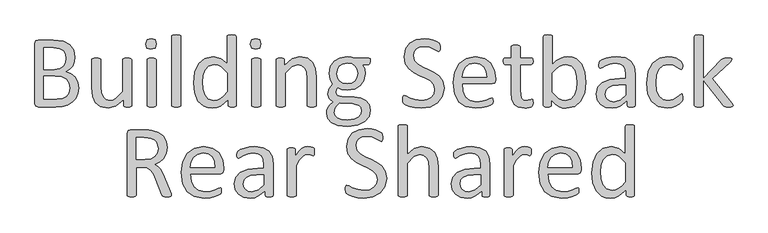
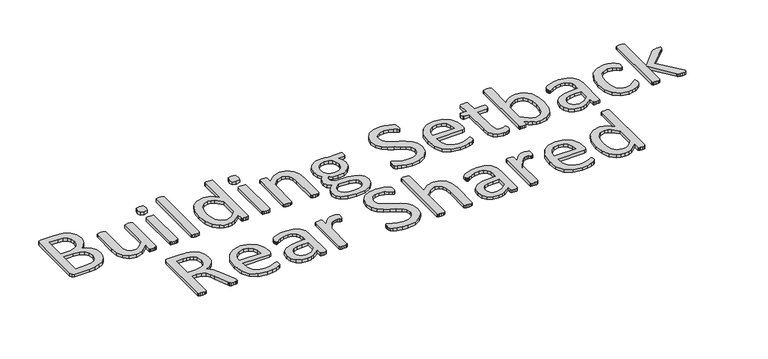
"""IFC4 building model written with IfcOpenShell, lengths in millimetres: proxy geometry, Marker-Setback Bldg Distance : Setback-Building-Rear Shared."""

from ifc_helpers import new_model, si_unit, origin, origin_with_axes, place, context, project, spatial, polyline, outline, extrude, source, transform, mapped, element, save


def generic_models_a3a4bf36(model_context):
    return source(origin(), model_context, "Body", "SweptSolid", [
        extrude(outline(polyline([(2948.652928, 103.9978258), (2946.2704862, 86.8080563), (2939.5755234, 72.6340358), (2929.2013467, 61.6265518), (2915.5098461, 53.6649743), (2899.1946438, 48.8397759), (2879.2907001, 47.2414289), (2827.2388718, 47.2414289), (2820.5740664, 49.6540281), (2817.4075299, 58.0981254), (2817.4075299, 237.1129882), (2820.6042239, 245.5570855), (2827.3595017, 247.9696848), (2872.9576272, 247.9696848), (2902.4818102, 244.5015734), (2921.6318166, 234.4289716), (2933.1821354, 218.2042418), (2937.0724517, 196.4606912), (2935.3534747, 182.6184031), (2930.3171738, 170.4046195), (2921.9333915, 160.3923327), (2910.3529152, 153.1545351), (2925.3110304, 147.5753993), (2937.4343416, 137.2313801), (2945.6371789, 122.5446823), (2948.652928, 103.9978258)]), holes=[polyline([(2910.0513403, 192.8417924), (2908.0307885, 206.1714031), (2901.6977155, 216.2741624), (2890.4188141, 222.6072354), (2871.9925875, 224.8087322), (2844.4286413, 224.8087322), (2844.4286413, 159.1860331), (2874.7670766, 159.1860331), (2891.4743262, 161.9303648), (2901.9992904, 169.2887924), (2908.1212609, 180.085174), (2910.0513403, 192.8417924)]), polyline([(2921.6318166, 103.7565658), (2918.7970125, 119.3178309), (2910.5037027, 130.5967323), (2896.812202, 137.5329551), (2876.0940062, 139.8852393), (2844.4286413, 139.8852393), (2844.4286413, 70.4023815), (2882.849284, 70.4023815), (2898.7121239, 72.5435633), (2910.6243326, 78.8766363), (2918.70654, 89.311128), (2921.6318166, 103.7565658)])]), origin_with_axes(), (0.0, 0.0, 1.0), 10.0),
        extrude(outline(polyline([(3106.9194374, 51.9459974), (3106.3464451, 49.8952881), (3104.3258932, 48.4477285), (3100.495892, 47.5430038), (3094.7358113, 47.2414289), (3088.5836833, 47.5430038), (3084.8441545, 48.4477285), (3082.9743901, 49.8952881), (3082.4918702, 51.9459974), (3082.4918702, 70.1008066), (3059.3610751, 49.7746581), (3036.23028, 43.3812701), (3013.1899574, 48.0255236), (2998.0508972, 60.6011971), (2989.7575873, 79.1178962), (2987.2545156, 104.8422355), (2987.2545156, 189.1625786), (2987.827508, 191.2132879), (2990.0290048, 192.7513199), (2994.2510534, 193.6862021), (3000.7650713, 193.927462), (3007.2790892, 193.6862021), (3011.4106654, 192.7814774), (3013.6121622, 191.2736029), (3014.275627, 189.1625786), (3014.275627, 109.0642841), (3015.9644465, 89.7333328), (3021.1515348, 77.3386043), (3029.957522, 69.3770268), (3042.382408, 66.5422227), (3051.527667, 68.2385816), (3060.6276897, 73.3276581), (3079.898326, 93.2617592), (3079.898326, 189.2228935), (3080.4713184, 191.2736029), (3082.6728152, 192.7814774), (3086.8345488, 193.6862021), (3093.4088817, 193.927462), (3099.9228996, 193.6862021), (3103.9941608, 192.7814774), (3106.1956576, 191.2736029), (3106.9194374, 189.2228935), (3106.9194374, 51.9459974)])), origin_with_axes(), (0.0, 0.0, 1.0), 10.0),
        extrude(outline(polyline([(3180.262454, 236.5701534), (3176.94513, 224.2357399), (3164.640874, 220.9485734), (3152.6381928, 224.1452674), (3149.3811838, 236.2082635), (3152.6985078, 248.5426771), (3165.0027639, 251.8298435), (3177.005445, 248.6331496), (3180.262454, 236.5701534)])), origin_with_axes(), (0.0, 0.0, 1.0), 10.0),
        extrude(outline(polyline([(3180.262454, 51.9459974), (3179.5989892, 49.8952881), (3177.4578074, 48.4477285), (3173.3865462, 47.5430038), (3166.6915833, 47.2414289), (3160.1172504, 47.5430038), (3155.9555167, 48.4477285), (3153.8143349, 49.8952881), (3153.2413426, 51.9459974), (3153.2413426, 189.2228935), (3153.8143349, 191.1831304), (3155.9555167, 192.7211624), (3160.1172504, 193.6258871), (3166.6915833, 193.927462), (3173.3865462, 193.6258871), (3177.4578074, 192.7211624), (3179.5989892, 191.1831304), (3180.262454, 189.2228935), (3180.262454, 51.9459974)])), origin_with_axes(), (0.0, 0.0, 1.0), 10.0),
        extrude(outline(polyline([(3253.6054705, 52.0063124), (3252.9420058, 49.955603), (3250.8008239, 48.477886), (3246.7295627, 47.5430038), (3240.0345999, 47.2414289), (3233.460267, 47.5430038), (3229.2985333, 48.477886), (3227.1573515, 49.955603), (3226.5843592, 52.0063124), (3226.5843592, 258.4644914), (3227.1573515, 260.6358307), (3229.2985333, 262.1738627), (3233.460267, 263.1087449), (3240.0345999, 263.4103198), (3246.7295627, 263.1087449), (3250.8008239, 262.1738627), (3252.9420058, 260.6358307), (3253.6054705, 258.4644914), (3253.6054705, 52.0063124)])), origin_with_axes(), (0.0, 0.0, 1.0), 10.0),
        extrude(outline(polyline([(3419.5922975, 52.0666274), (3419.0193052, 49.8651306), (3417.0590683, 48.3874135), (3413.410012, 47.5430038), (3407.8911913, 47.2414289), (3402.1612681, 47.5430038), (3398.4217393, 48.3270986), (3396.310715, 49.6841856), (3395.6472502, 51.7047375), (3395.6472502, 68.834192), (3373.2402348, 50.1063905), (3361.0792268, 45.0625502), (3347.8174704, 43.3812701), (3333.8545524, 44.8816053), (3322.1232887, 49.3826107), (3304.9033617, 65.6073405), (3295.2529647, 89.6730178), (3292.2070582, 118.774996), (3296.006902, 151.4958731), (3307.2254884, 176.4059601), (3325.6215575, 192.2386426), (3351.0141644, 197.7876208), (3372.9386599, 192.38943), (3392.5711861, 176.5567476), (3392.5711861, 258.4041764), (3393.1441785, 260.5152008), (3395.3456753, 262.0833903), (3399.5074089, 263.0182725), (3405.9007969, 263.4103198), (3412.5957598, 263.0182725), (3416.6670209, 262.0833903), (3418.8685177, 260.5453582), (3419.5922975, 258.4644914), (3419.5922975, 52.0666274)]), holes=[polyline([(3392.5711861, 149.0531164), (3373.2100773, 168.0824928), (3363.6652316, 172.9906243), (3353.7283386, 174.6266682), (3337.7448687, 170.0427297), (3327.0691171, 157.949576), (3321.097934, 140.9407515), (3319.2281696, 121.6701151), (3320.7963591, 101.2836516), (3326.2548648, 83.6113623), (3336.5687265, 71.2166337), (3352.7029839, 66.5422227), (3362.1724359, 67.8993098), (3371.5212579, 72.3927759), (3381.5033872, 80.5352983), (3392.5711861, 92.8998693), (3392.5711861, 149.0531164)])]), origin_with_axes(), (0.0, 0.0, 1.0), 10.0),
        extrude(outline(polyline([(3492.9353141, 236.5701534), (3489.6179901, 224.2357399), (3477.3137341, 220.9485734), (3465.3110529, 224.1452674), (3462.0540439, 236.2082635), (3465.3713679, 248.5426771), (3477.675624, 251.8298435), (3489.6783051, 248.6331496), (3492.9353141, 236.5701534)])), origin_with_axes(), (0.0, 0.0, 1.0), 10.0),
        extrude(outline(polyline([(3492.9353141, 51.9459974), (3492.2718493, 49.8952881), (3490.1306675, 48.4477285), (3486.0594063, 47.5430038), (3479.3644434, 47.2414289), (3472.7901105, 47.5430038), (3468.6283768, 48.4477285), (3466.487195, 49.8952881), (3465.9142027, 51.9459974), (3465.9142027, 189.2228935), (3466.487195, 191.1831304), (3468.6283768, 192.7211624), (3472.7901105, 193.6258871), (3479.3644434, 193.927462), (3486.0594063, 193.6258871), (3490.1306675, 192.7211624), (3492.2718493, 191.1831304), (3492.9353141, 189.2228935), (3492.9353141, 51.9459974)])), origin_with_axes(), (0.0, 0.0, 1.0), 10.0),
        extrude(outline(polyline([(3658.922141, 52.0063124), (3658.2586763, 49.955603), (3656.1174944, 48.477886), (3652.0462332, 47.5430038), (3645.4719003, 47.2414289), (3638.7769375, 47.5430038), (3634.7056763, 48.4477285), (3632.5644945, 49.8952881), (3631.9010297, 52.0063124), (3631.9010297, 132.5871266), (3630.1217378, 151.5260306), (3624.9648069, 163.9207591), (3616.1889772, 171.8823366), (3603.7339337, 174.6266682), (3585.428337, 167.9015478), (3566.2783306, 148.1483917), (3566.2783306, 52.0063124), (3565.6148659, 49.8952881), (3563.473684, 48.4477285), (3559.4024228, 47.5430038), (3552.70746, 47.2414289), (3546.1331271, 47.5430038), (3541.9713934, 48.4477285), (3539.8302116, 49.8952881), (3539.2572193, 51.9459974), (3539.2572193, 189.2228935), (3539.7397391, 191.2736029), (3541.699976, 192.7814774), (3545.4696623, 193.6862021), (3551.5614754, 193.927462), (3557.5326584, 193.6862021), (3561.2118723, 192.7814774), (3563.1117942, 191.2736029), (3563.6847865, 189.2228935), (3563.6847865, 171.0680843), (3586.7552666, 191.3640754), (3609.9463767, 197.7876208), (3632.9866993, 193.0830523), (3648.1257595, 180.5073788), (3656.4190693, 162.0811522), (3658.922141, 136.6885453), (3658.922141, 52.0063124)])), origin_with_axes(), (0.0, 0.0, 1.0), 10.0),
        extrude(outline(polyline([(3821.0488092, 184.2167501), (3819.5710922, 176.88848), (3815.8014059, 174.6266682), (3795.8371473, 174.6266682), (3803.4368349, 162.1414672), (3805.6081742, 147.9674467), (3801.7480154, 126.4953136), (3790.6802165, 110.6927886), (3773.5507619, 100.8312893), (3751.5659514, 97.4234929), (3735.3713791, 99.6853046), (3723.5194854, 105.3850703), (3718.694287, 99.0821548), (3716.8245225, 90.9094749), (3721.9512959, 81.9828578), (3735.5824816, 78.122699), (3772.6158797, 76.5545095), (3792.0373035, 73.629233), (3807.3271511, 66.1803328), (3817.4299104, 54.3284391), (3821.0488092, 38.0132368), (3817.0077055, 19.3457503), (3804.612977, 3.7844853), (3783.3217888, -6.8007938), (3752.7722511, -10.6609526), (3723.8512178, -7.7658335), (3704.309164, 0.135429), (3693.2413651, 12.1079526), (3689.8034112, 27.1565403), (3691.0398683, 37.1989846), (3694.8397121, 46.4271767), (3701.1727851, 54.7808015), (3709.8882998, 62.682064), (3697.6443587, 72.6038783), (3693.6635699, 85.5414417), (3697.7649886, 102.7010537), (3707.8979054, 116.2417669), (3700.2982178, 129.2094877), (3697.5237287, 146.7611471), (3701.5346749, 168.2031228), (3712.6929464, 184.2469076), (3729.8224009, 194.2893519), (3751.5659514, 197.7876208), (3763.3876877, 196.7622661), (3773.7015494, 193.927462), (3815.8014059, 193.927462), (3819.7218797, 191.5450203), (3821.0488092, 184.2167501)]), holes=[polyline([(3782.4472216, 147.7865018), (3780.411591, 160.6712895), (3774.3046992, 170.3744621), (3764.4431998, 176.4587357), (3751.1437466, 178.486827), (3737.6935059, 175.9535978), (3728.1637389, 169.017375), (3722.5242882, 158.8543007), (3720.6846813, 146.8214621), (3722.7203119, 134.2759461), (3728.8272037, 124.7461791), (3738.5982306, 118.7297598), (3751.6262664, 116.7242867), (3765.3479245, 119.1670434), (3774.968164, 125.9524788), (3780.6076147, 135.9647656), (3782.4472216, 147.7865018)]), polyline([(3794.0276979, 37.1688271), (3792.1579335, 45.6657), (3786.5486403, 51.9761549), (3766.3431217, 57.4949756), (3729.6716134, 58.8219052), (3721.3783036, 50.9809577), (3716.2515302, 43.86379), (3713.6579861, 37.1989846), (3712.9643638, 30.4135493), (3715.557908, 20.9817942), (3723.3385405, 14.158662), (3735.7634265, 10.0195464), (3752.2897312, 8.6398412), (3772.0730449, 11.022283), (3784.9201358, 17.3855134), (3791.9166736, 26.462918), (3794.0276979, 37.1688271)])]), origin_with_axes(), (0.0, 0.0, 1.0), 10.0),
        extrude(outline(polyline([(4041.077859, 103.153416), (4035.8907706, 77.8211241), (4021.4453327, 58.9726927), (3999.7017822, 47.3017439), (3972.8013008, 43.3812701), (3954.1036567, 44.8891447), (3938.7233367, 48.598516), (3927.3841203, 53.152297), (3921.0208898, 57.1632432), (3918.3971881, 61.8074967), (3917.5527784, 69.7389167), (3917.8543533, 75.6196273), (3918.7892355, 79.3893136), (3920.357425, 81.4098655), (3922.5589218, 81.9828578), (3928.7412073, 79.5702586), (3939.0249116, 74.3228552), (3954.1338142, 69.0151369), (3974.5504352, 66.5422227), (3990.6243776, 68.894507), (4003.1397361, 75.5291549), (4011.2219435, 86.0239615), (4014.0567476, 100.197982), (4010.0759589, 114.9148373), (3999.6113097, 125.6207464), (3984.8039819, 134.0648437), (3967.7348424, 141.9057912), (3950.7561753, 150.7419358), (3936.0091625, 162.1414672), (3925.4540409, 177.5821023), (3921.4129372, 198.7526605), (3926.0270332, 221.4009358), (3938.8439666, 238.0478704), (3958.3860204, 248.3014172), (3982.8739025, 251.8298435), (3996.4146157, 250.5330714), (4009.2315491, 247.0951175), (4019.9676157, 242.3000766), (4026.1499012, 238.0177129), (4028.0799806, 235.5146412), (4028.8640754, 233.282987), (4029.3465952, 229.9958205), (4029.4973827, 225.0499921), (4029.2561227, 219.9232187), (4028.5625004, 216.1836899), (4027.2355709, 213.9520356), (4025.275334, 213.2282559), (4019.8469857, 215.5805401), (4010.7997386, 220.8581009), (3998.1335927, 226.2261342), (3981.7279179, 228.6688909), (3966.9809051, 226.4673941), (3956.6067284, 220.616841), (3950.4847579, 211.9314838), (3948.4340486, 201.2858897), (3952.3545223, 186.7499793), (3962.8191715, 175.9535978), (3977.6868142, 167.3285555), (3994.6654813, 159.4272931), (4011.6743058, 150.6514634), (4026.5419486, 139.372562), (4037.0669127, 124.0525569), (4041.077859, 103.153416)])), origin_with_axes(), (0.0, 0.0, 1.0), 10.0),
        extrude(outline(polyline([(4195.4842096, 127.7619282), (4192.4986181, 119.2575159), (4185.6528678, 116.7242867), (4095.1200817, 116.7242867), (4097.3818935, 94.4077438), (4104.8911086, 77.3989193), (4118.5826092, 66.4819078), (4139.2103326, 62.682064), (4156.3397871, 64.4613559), (4169.367823, 68.4723021), (4178.3849126, 72.4832483), (4183.7227884, 74.2625403), (4185.5925528, 73.7498629), (4186.8893249, 72.2419884), (4187.5527897, 69.4373418), (4187.7638921, 65.0343482), (4187.6131046, 61.8074967), (4187.2210573, 59.36474), (4186.46712, 57.4045032), (4185.1100329, 55.7458412), (4180.194362, 52.8205646), (4169.6090829, 48.6588309), (4154.5303377, 45.0097746), (4136.2548985, 43.3812701), (4106.7910305, 48.2064686), (4085.5299997, 62.561434), (4072.5019639, 86.4763239), (4068.0989703, 119.8606657), (4072.7130663, 152.4307553), (4086.0125196, 176.9186375), (4107.0021329, 192.38943), (4134.5660791, 197.7876208), (4162.3109702, 192.570375), (4181.1594017, 178.5169845), (4192.0160982, 157.7987886), (4195.4842096, 132.4061817), (4195.4842096, 127.7619282)]), holes=[polyline([(4168.4630983, 136.0250805), (4166.5104008, 153.7350668), (4159.8078985, 167.1777681), (4148.5214577, 175.6595622), (4132.8169446, 178.486827), (4116.7430023, 174.9885581), (4105.1926835, 165.6698936), (4097.9850433, 152.1291804), (4095.1200817, 136.0250805), (4168.4630983, 136.0250805)])]), origin_with_axes(), (0.0, 0.0, 1.0), 10.0),
        extrude(outline(polyline([(4307.4288139, 61.1138745), (4306.825664, 53.5745019), (4304.9860571, 49.4730832), (4301.3068433, 47.000169), (4295.7277076, 45.1002471), (4289.0629022, 43.86379), (4282.036207, 43.3812701), (4263.6702953, 46.3065467), (4251.1549368, 55.1426914), (4244.0377691, 70.1309641), (4241.8061148, 91.5729397), (4241.8061148, 174.6266682), (4223.4703607, 174.6266682), (4219.9419343, 176.88848), (4218.6451622, 184.2167501), (4219.0070521, 188.7102162), (4219.9419343, 191.7561227), (4221.4799663, 193.4449422), (4223.5909906, 193.927462), (4241.8061148, 193.927462), (4241.8061148, 227.5229063), (4242.3791071, 229.5434582), (4244.520289, 231.2021201), (4248.6820226, 232.2274748), (4255.2563555, 232.5290497), (4261.9513184, 232.2274748), (4266.0225796, 231.2021201), (4268.1637614, 229.5434582), (4268.8272262, 227.5229063), (4268.8272262, 193.927462), (4302.6036154, 193.927462), (4304.6241672, 193.4449422), (4306.1621993, 191.7561227), (4307.1272389, 188.7102162), (4307.4288139, 184.2167501), (4306.1018843, 176.88848), (4302.6036154, 174.6266682), (4268.8272262, 174.6266682), (4268.8272262, 95.9759333), (4272.8381724, 73.9911229), (4278.4399262, 68.4044478), (4287.2232953, 66.5422227), (4293.2246359, 67.235845), (4297.8990469, 68.6834045), (4301.4274733, 70.1611216), (4304.0511749, 70.8849013), (4306.4637742, 69.0151369), (4307.1272389, 65.9993879), (4307.4288139, 61.1138745)])), origin_with_axes(), (0.0, 0.0, 1.0), 10.0),
        extrude(outline(polyline([(4465.6953233, 122.3938949), (4461.8351645, 89.5222304), (4450.4657907, 64.6121434), (4432.0094065, 48.8397759), (4406.9485321, 43.3812701), (4394.8855359, 44.7081997), (4384.0288394, 49.0207208), (4373.4134028, 56.5299359), (4362.1948164, 67.4469474), (4362.1948164, 51.7047375), (4361.5313516, 49.6841856), (4359.3901698, 48.3270986), (4355.7109559, 47.5430038), (4350.0715052, 47.2414289), (4344.522527, 47.5430038), (4340.7528407, 48.3874135), (4338.7926038, 49.8651306), (4338.310084, 52.0063124), (4338.310084, 258.4644914), (4338.8830763, 260.6358307), (4341.0242581, 262.1738627), (4345.1859918, 263.1087449), (4351.7603247, 263.4103198), (4358.4552875, 263.1087449), (4362.5265487, 262.1738627), (4364.6677306, 260.6056732), (4365.3311954, 258.4644914), (4365.3311954, 174.6869832), (4377.0624591, 185.4532072), (4388.190573, 192.570375), (4399.0774271, 196.5511637), (4410.5674309, 197.7876208), (4424.3267859, 196.2646675), (4435.9298803, 191.6958077), (4453.0593348, 175.3806055), (4462.6795742, 151.4054006), (4465.6953233, 122.3938949)]), holes=[polyline([(4438.6742119, 119.4384608), (4437.1060224, 139.9757118), (4431.6173592, 157.6178436), (4421.27334, 169.9522572), (4405.1993976, 174.6266682), (4395.7902606, 173.2695811), (4386.3509661, 168.7459576), (4376.3688368, 160.6335927), (4365.3311954, 148.1483917), (4365.3311954, 92.1157746), (4384.8129341, 73.0863981), (4394.2974648, 68.1782666), (4404.1740429, 66.5422227), (4420.0670404, 71.1563188), (4430.8031069, 83.3399449), (4436.8044475, 100.3487694), (4438.6742119, 119.4384608)])]), origin_with_axes(), (0.0, 0.0, 1.0), 10.0),
        extrude(outline(polyline([(4612.3813564, 51.8856824), (4611.0544268, 49.0810358), (4607.435528, 47.6937913), (4600.6802502, 47.2414289), (4593.8344998, 47.6937913), (4590.1251285, 49.0810358), (4588.9791439, 51.8856824), (4588.9791439, 65.758128), (4568.6529954, 49.7143431), (4557.1026766, 44.9645384), (4544.888893, 43.3812701), (4524.9547919, 46.2462317), (4509.7855742, 54.5395416), (4500.0447048, 67.8691523), (4496.5765934, 85.8430166), (4501.3716344, 106.289795), (4515.12345, 120.7050754), (4537.0479455, 129.2999602), (4566.2403962, 132.1649218), (4585.3602451, 132.1649218), (4585.3602451, 143.6850831), (4583.6714256, 158.7638283), (4578.2430773, 169.6808398), (4568.5625229, 176.2551727), (4553.9361401, 178.486827), (4537.1987329, 176.0742277), (4524.2310121, 170.7665094), (4514.9123476, 165.4587911), (4509.3633693, 163.0461919), (4507.19203, 163.6794992), (4505.593683, 165.6095786), (4504.5984859, 168.9269025), (4504.296911, 173.3600536), (4504.8397458, 179.6931266), (4507.4936049, 184.1262777), (4514.7314026, 188.6499012), (4526.5531388, 193.1132098), (4541.1795217, 196.4606912), (4557.1931491, 197.7876208), (4582.8270159, 194.3798244), (4599.9263129, 184.4278526), (4609.4259224, 168.1729653), (4612.3813564, 145.4945325), (4612.3813564, 51.8856824)]), holes=[polyline([(4585.3602451, 112.8641279), (4563.8881119, 112.8641279), (4545.9745626, 111.084836), (4533.3385742, 105.8374327), (4525.949989, 97.5139653), (4523.5977048, 86.3255364), (4525.2865242, 76.584667), (4530.3529826, 69.0754519), (4538.4653475, 64.280411), (4549.2918866, 62.682064), (4567.6276407, 67.7786798), (4585.3602451, 83.3701024), (4585.3602451, 112.8641279)])]), origin_with_axes(), (0.0, 0.0, 1.0), 10.0),
        extrude(outline(polyline([(4755.2072308, 74.98632), (4755.0564433, 70.7642714), (4754.5136085, 67.7485223), (4753.6088838, 65.3057656), (4751.1962846, 61.6868668), (4744.7124241, 55.8061562), (4734.4287199, 49.5635557), (4722.0339914, 45.1002471), (4708.1615458, 43.3812701), (4681.9848442, 48.3874135), (4662.8951528, 63.0137964), (4651.163889, 86.5969538), (4647.1227853, 118.835311), (4652.0686137, 154.5719371), (4665.6093269, 179.0296618), (4685.8450029, 193.1735248), (4711.0566649, 197.7876208), (4723.7831258, 196.4305337), (4735.1223422, 192.8719499), (4744.3505343, 187.8054915), (4750.2010874, 182.8898206), (4752.7041591, 179.6629691), (4753.8501437, 177.0995824), (4754.4532935, 173.9330459), (4754.604081, 169.4998948), (4753.2469939, 161.4780024), (4749.9598275, 159.1860331), (4744.7425816, 161.5986324), (4737.2936815, 166.9063507), (4726.3465125, 172.214069), (4711.2376098, 174.6266682), (4695.3672305, 171.1283993), (4683.7038211, 160.6335927), (4676.5338778, 143.4739807), (4674.1438967, 119.9812957), (4676.6168109, 96.6393981), (4683.9149236, 79.8718335), (4695.7668173, 69.8293892), (4711.8407596, 66.5422227), (4726.8893473, 69.5881293), (4738.1079338, 76.2830921), (4746.0996687, 82.8875825), (4751.1661271, 85.8430166), (4752.945419, 85.2700243), (4754.2421911, 83.3399449), (4754.9961284, 79.901991), (4755.2072308, 74.98632)])), origin_with_axes(), (0.0, 0.0, 1.0), 10.0),
        extrude(outline(polyline([(4905.7534227, 52.1269423), (4905.1201154, 49.9857605), (4903.0392486, 48.4477285), (4898.9679874, 47.5430038), (4892.303182, 47.2414289), (4885.4272742, 47.4826888), (4880.8433356, 48.2366261), (4877.8275866, 49.7445006), (4875.7165623, 52.1269423), (4816.9697711, 128.0635031), (4816.9697711, 51.9459974), (4816.3063063, 49.8952881), (4814.1651244, 48.4477285), (4810.0938633, 47.5430038), (4803.3989004, 47.2414289), (4796.8245675, 47.5430038), (4792.6628338, 48.477886), (4790.521652, 49.955603), (4789.9486597, 52.0063124), (4789.9486597, 258.4644914), (4790.521652, 260.6358307), (4792.6628338, 262.1738627), (4796.8245675, 263.1087449), (4803.3989004, 263.4103198), (4810.0938633, 263.1087449), (4814.1651244, 262.1738627), (4816.3063063, 260.6056732), (4816.9697711, 258.4041764), (4816.9697711, 131.561772), (4870.6501039, 188.6197437), (4873.3341205, 191.1228154), (4876.7117595, 192.7814774), (4881.356013, 193.6862021), (4887.8398734, 193.927462), (4894.4745213, 193.6862021), (4898.7870424, 192.9322649), (4901.1694842, 191.5751778), (4901.8932639, 189.3435235), (4900.8377518, 185.6944672), (4897.3093254, 181.442261), (4843.9908824, 131.7427169), (4901.9535789, 59.304425), (4904.8788555, 55.1125339), (4905.7534227, 52.1269423)])), origin_with_axes(), (0.0, 0.0, 1.0), 10.0),
        extrude(outline(polyline([(3225.9208944, -217.3559155), (3225.468532, -219.4669398), (3223.4781377, -221.0049718), (3219.1354591, -221.939854), (3211.6865589, -222.2414289), (3205.1423835, -221.939854), (3201.0409648, -220.9446568), (3198.6585231, -219.0447349), (3197.2109636, -215.9686709), (3178.8148944, -169.5261357), (3172.1500891, -154.9902254), (3164.0678817, -143.5605365), (3153.0603977, -136.1116364), (3137.8007075, -133.4577773), (3120.4299931, -133.4577773), (3120.4299931, -217.3559155), (3119.7363708, -219.4970973), (3117.534874, -220.9446568), (3113.4334553, -221.8493815), (3106.9194374, -222.2414289), (3100.4054195, -221.8493815), (3096.2436858, -220.9144993), (3094.042189, -219.4669398), (3093.4088817, -217.2956005), (3093.4088817, -32.3095546), (3096.5151032, -23.8956148), (3103.1799086, -21.513173), (3145.0385052, -21.513173), (3157.4030763, -21.9052204), (3166.3296934, -22.7797876), (3186.5050545, -29.1128606), (3201.2219098, -40.1505021), (3210.1183694, -55.4705072), (3213.0738035, -74.4697261), (3210.4501018, -92.5642203), (3202.8504143, -106.7080833), (3190.9382056, -117.3235199), (3175.3769405, -124.953365), (3184.3638727, -130.4118707), (3191.8730878, -138.3131332), (3198.4172632, -148.8984123), (3204.6297062, -162.408968), (3222.5432555, -206.137329), (3225.3177446, -213.8576466), (3225.9208944, -217.3559155)]), holes=[polyline([(3186.0526921, -77.3648452), (3180.8957613, -58.0037364), (3173.9821566, -51.2032223), (3163.5552043, -46.604205), (3154.9904771, -45.126488), (3142.4449611, -44.6741256), (3120.4299931, -44.6741256), (3120.4299931, -110.2968247), (3145.9432299, -110.2968247), (3163.7964642, -107.8239105), (3176.3419802, -100.8876877), (3183.7004079, -90.4230385), (3186.0526921, -77.3648452)])]), origin_with_axes(), (0.0, 0.0, 1.0), 10.0),
        extrude(outline(polyline([(3382.9207892, -141.7209296), (3379.9351977, -150.2253419), (3373.0894474, -152.7585711), (3282.5566613, -152.7585711), (3284.8184731, -175.075114), (3292.3276882, -192.0839385), (3306.0191888, -203.00095), (3326.6469122, -206.8007938), (3343.7763667, -205.0215019), (3356.8044026, -201.0105557), (3365.8214922, -196.9996095), (3371.159368, -195.2203175), (3373.0291324, -195.7329949), (3374.3259045, -197.2408694), (3374.9893693, -200.045516), (3375.2004717, -204.4485096), (3375.0496842, -207.6753611), (3374.6576369, -210.1181178), (3373.9036996, -212.0783546), (3372.5466125, -213.7370166), (3367.6309416, -216.6622932), (3357.0456625, -220.8240269), (3341.9669173, -224.4730832), (3323.6914782, -226.1015877), (3294.2276101, -221.2763892), (3272.9665794, -206.9214238), (3259.9385435, -183.0065339), (3255.5355499, -149.6221921), (3260.149646, -117.0521025), (3273.4490992, -92.5642203), (3294.4387125, -77.0934278), (3322.0026587, -71.695237), (3349.7475498, -76.9124828), (3368.5959813, -90.9658733), (3379.4526778, -111.6840692), (3382.9207892, -137.0766761), (3382.9207892, -141.7209296)]), holes=[polyline([(3355.8996779, -133.4577773), (3353.9469804, -115.747791), (3347.2444781, -102.3050897), (3335.9580374, -93.8232956), (3320.2535243, -90.9960308), (3304.1795819, -94.4942997), (3292.6292631, -103.8129642), (3285.4216229, -117.3536774), (3282.5566613, -133.4577773), (3355.8996779, -133.4577773)])]), origin_with_axes(), (0.0, 0.0, 1.0), 10.0),
        extrude(outline(polyline([(3529.6068224, -217.5971754), (3528.2798928, -220.401822), (3524.6609939, -221.7890665), (3517.9057161, -222.2414289), (3511.0599658, -221.7890665), (3507.3505945, -220.401822), (3506.2046098, -217.5971754), (3506.2046098, -203.7247298), (3485.8784613, -219.7685147), (3474.3281425, -224.5183194), (3462.1143589, -226.1015877), (3442.1802578, -223.2366261), (3427.0110401, -214.9433162), (3417.2701708, -201.6137055), (3413.8020594, -183.6398412), (3418.5971003, -163.1930628), (3432.3489159, -148.7777824), (3454.2734114, -140.1828976), (3483.4658621, -137.317936), (3502.585711, -137.317936), (3502.585711, -125.7977747), (3500.8968915, -110.7190295), (3495.4685433, -99.802018), (3485.7879889, -93.2276851), (3471.161606, -90.9960308), (3454.4241989, -93.4086301), (3441.456478, -98.7163484), (3432.1378135, -104.0240667), (3426.5888353, -106.4366659), (3424.417496, -105.8033586), (3422.819149, -103.8732792), (3421.8239518, -100.5559553), (3421.5223769, -96.1228042), (3422.0652117, -89.7897312), (3424.7190709, -85.3565801), (3431.9568686, -80.8329566), (3443.7786048, -76.369648), (3458.4049876, -73.0221666), (3474.418615, -71.695237), (3500.0524818, -75.1030334), (3517.1517788, -85.0550052), (3526.6513883, -101.3098925), (3529.6068224, -123.9883253), (3529.6068224, -217.5971754)]), holes=[polyline([(3502.585711, -156.6187299), (3481.1135779, -156.6187299), (3463.2000286, -158.3980218), (3450.5640401, -163.6454251), (3443.175455, -171.9688925), (3440.8231707, -183.1573214), (3442.5119902, -192.8981908), (3447.5784486, -200.4074059), (3455.6908135, -205.2024468), (3466.5173525, -206.8007938), (3484.8531067, -201.704178), (3502.585711, -186.1127554), (3502.585711, -156.6187299)])]), origin_with_axes(), (0.0, 0.0, 1.0), 10.0),
        extrude(outline(polyline([(3653.1319029, -87.1358721), (3652.9811154, -92.6245353), (3652.3779656, -96.1831192), (3651.2621385, -98.203671), (3649.3923741, -98.8972933), (3646.4670975, -98.203671), (3642.5767813, -96.8164265), (3637.7214253, -95.4894969), (3631.9010297, -94.8561896), (3624.542602, -96.5148516), (3616.973072, -101.9431998), (3608.6797621, -111.9554866), (3599.0896802, -127.2453343), (3599.0896802, -217.5368604), (3598.4262154, -219.5875697), (3596.2850336, -221.0351293), (3592.2137724, -221.939854), (3585.5188095, -222.2414289), (3578.9444766, -221.939854), (3574.7827429, -221.0351293), (3572.6415611, -219.5875697), (3572.0685688, -217.5368604), (3572.0685688, -80.2599643), (3572.5510886, -78.2092549), (3574.5113255, -76.7013804), (3578.2810118, -75.7966557), (3584.3728249, -75.5553958), (3590.344008, -75.7966557), (3594.0232218, -76.7013804), (3595.9231437, -78.2092549), (3596.496136, -80.2599643), (3596.496136, -100.2845379), (3606.9306277, -85.9898874), (3616.1889772, -77.2743727), (3624.8140194, -72.9015366), (3633.4692192, -71.695237), (3637.8722128, -71.9063394), (3643.0593011, -72.7205917), (3647.9448146, -74.0776787), (3651.0208786, -75.5553958), (3652.2271782, -76.9426403), (3652.770013, -78.6616173), (3653.0715879, -81.7075238), (3653.1319029, -87.1358721)])), origin_with_axes(), (0.0, 0.0, 1.0), 10.0),
        extrude(outline(polyline([(3869.3007938, -166.3294418), (3864.1137055, -191.6617337), (3849.6682676, -210.5101651), (3827.9247171, -222.1811139), (3801.0242356, -226.1015877), (3782.3265916, -224.5937131), (3766.9462715, -220.8843418), (3755.6070552, -216.3305608), (3749.2438247, -212.3196146), (3746.620123, -207.6753611), (3745.7757133, -199.7439411), (3746.0772882, -193.8632305), (3747.0121704, -190.0935442), (3748.5803599, -188.0729923), (3750.7818567, -187.5), (3756.9641422, -189.9125992), (3767.2478464, -195.1600026), (3782.3567491, -200.4677209), (3802.7733701, -202.9406351), (3818.8473125, -200.5883508), (3831.362671, -193.9537029), (3839.4448784, -183.4588963), (3842.2796825, -169.2848758), (3838.2988937, -154.5680205), (3827.8342446, -143.8621114), (3813.0269168, -135.4180141), (3795.9577773, -127.5770666), (3778.9791102, -118.740922), (3764.2320974, -107.3413906), (3753.6769758, -91.9007555), (3749.6358721, -70.7301973), (3754.2499681, -48.081922), (3767.0669015, -31.4349874), (3786.6089553, -21.1814406), (3811.0968374, -17.6530143), (3824.6375506, -18.9497864), (3837.454484, -22.3877403), (3848.1905506, -27.1827812), (3854.3728361, -31.4651449), (3856.3029155, -33.9682166), (3857.0870102, -36.1998708), (3857.5695301, -39.4870373), (3857.7203175, -44.4328657), (3857.4790576, -49.5596391), (3856.7854353, -53.2991679), (3855.4585058, -55.5308222), (3853.4982689, -56.2546019), (3848.0699206, -53.9023177), (3839.0226735, -48.6247569), (3826.3565276, -43.2567236), (3809.9508528, -40.8139669), (3795.20384, -43.0154637), (3784.8296633, -48.8660168), (3778.7076928, -57.551374), (3776.6569834, -68.1969681), (3780.5774572, -82.7328785), (3791.0421063, -93.52926), (3805.9097491, -102.1543023), (3822.8884162, -110.0555647), (3839.8972407, -118.8313944), (3854.7648835, -130.1102958), (3865.2898476, -145.4303009), (3869.3007938, -166.3294418)])), origin_with_axes(), (0.0, 0.0, 1.0), 10.0),
        extrude(outline(polyline([(4023.7071445, -217.4765454), (4023.0436797, -219.5272548), (4020.9024979, -221.0049718), (4016.8312367, -221.939854), (4010.2569038, -222.2414289), (4003.5619409, -221.939854), (3999.4906797, -221.0351293), (3997.3494979, -219.5875697), (3996.6860331, -217.4765454), (3996.6860331, -136.8957312), (3994.9067412, -117.9568272), (3989.7498104, -105.5620987), (3980.9739807, -97.6005212), (3968.5189371, -94.8561896), (3950.2133405, -101.58131), (3931.0633341, -121.3344661), (3931.0633341, -217.4765454), (3930.3998693, -219.5875697), (3928.2586875, -221.0351293), (3924.1874263, -221.939854), (3917.4924634, -222.2414289), (3910.9181305, -221.939854), (3906.7563969, -221.0049718), (3904.6152151, -219.5272548), (3904.0422227, -217.4765454), (3904.0422227, -11.0183664), (3904.6152151, -8.8470271), (3906.7563969, -7.3089951), (3910.9181305, -6.3741129), (3917.4924634, -6.072538), (3924.1874263, -6.3741129), (3928.2586875, -7.3089951), (3930.3998693, -8.8771846), (3931.0633341, -11.0183664), (3931.0633341, -94.4942997), (3952.7767272, -77.3045302), (3974.7916951, -71.695237), (3997.8320178, -76.3998055), (4012.9409204, -88.975479), (4021.2040728, -107.4017056), (4023.7071445, -132.9149424), (4023.7071445, -217.4765454)])), origin_with_axes(), (0.0, 0.0, 1.0), 10.0),
        extrude(outline(polyline([(4178.1134952, -217.5971754), (4176.7865656, -220.401822), (4173.1676667, -221.7890665), (4166.4123889, -222.2414289), (4159.5666386, -221.7890665), (4155.8572673, -220.401822), (4154.7112826, -217.5971754), (4154.7112826, -203.7247298), (4134.3851341, -219.7685147), (4122.8348153, -224.5183194), (4110.6210317, -226.1015877), (4090.6869306, -223.2366261), (4075.5177129, -214.9433162), (4065.7768436, -201.6137055), (4062.3087322, -183.6398412), (4067.1037731, -163.1930628), (4080.8555887, -148.7777824), (4102.7800842, -140.1828976), (4131.9725349, -137.317936), (4151.0923838, -137.317936), (4151.0923838, -125.7977747), (4149.4035643, -110.7190295), (4143.9752161, -99.802018), (4134.2946617, -93.2276851), (4119.6682788, -90.9960308), (4102.9308717, -93.4086301), (4089.9631508, -98.7163484), (4080.6444863, -104.0240667), (4075.0955081, -106.4366659), (4072.9241688, -105.8033586), (4071.3258218, -103.8732792), (4070.3306246, -100.5559553), (4070.0290497, -96.1228042), (4070.5718845, -89.7897312), (4073.2257437, -85.3565801), (4080.4635414, -80.8329566), (4092.2852776, -76.369648), (4106.9116604, -73.0221666), (4122.9252878, -71.695237), (4148.5591546, -75.1030334), (4165.6584516, -85.0550052), (4175.1580611, -101.3098925), (4178.1134952, -123.9883253), (4178.1134952, -217.5971754)]), holes=[polyline([(4151.0923838, -156.6187299), (4129.6202507, -156.6187299), (4111.7067014, -158.3980218), (4099.0707129, -163.6454251), (4091.6821278, -171.9688925), (4089.3298435, -183.1573214), (4091.018663, -192.8981908), (4096.0851214, -200.4074059), (4104.1974863, -205.2024468), (4115.0240253, -206.8007938), (4133.3597795, -201.704178), (4151.0923838, -186.1127554), (4151.0923838, -156.6187299)])]), origin_with_axes(), (0.0, 0.0, 1.0), 10.0),
        extrude(outline(polyline([(4301.6385757, -87.1358721), (4301.4877882, -92.6245353), (4300.8846384, -96.1831192), (4299.7688113, -98.203671), (4297.8990469, -98.8972933), (4294.9737703, -98.203671), (4291.0834541, -96.8164265), (4286.2280981, -95.4894969), (4280.4077025, -94.8561896), (4273.0492748, -96.5148516), (4265.4797448, -101.9431998), (4257.1864349, -111.9554866), (4247.596353, -127.2453343), (4247.596353, -217.5368604), (4246.9328882, -219.5875697), (4244.7917064, -221.0351293), (4240.7204452, -221.939854), (4234.0254823, -222.2414289), (4227.4511494, -221.939854), (4223.2894157, -221.0351293), (4221.1482339, -219.5875697), (4220.5752416, -217.5368604), (4220.5752416, -80.2599643), (4221.0577614, -78.2092549), (4223.0179983, -76.7013804), (4226.7876846, -75.7966557), (4232.8794977, -75.5553958), (4238.8506808, -75.7966557), (4242.5298946, -76.7013804), (4244.4298165, -78.2092549), (4245.0028088, -80.2599643), (4245.0028088, -100.2845379), (4255.4373005, -85.9898874), (4264.69565, -77.2743727), (4273.3206922, -72.9015366), (4281.975892, -71.695237), (4286.3788856, -71.9063394), (4291.5659739, -72.7205917), (4296.4514874, -74.0776787), (4299.5275514, -75.5553958), (4300.733851, -76.9426403), (4301.2766858, -78.6616173), (4301.5782607, -81.7075238), (4301.6385757, -87.1358721)])), origin_with_axes(), (0.0, 0.0, 1.0), 10.0),
        extrude(outline(polyline([(4452.1847676, -141.7209296), (4449.1991761, -150.2253419), (4442.3534257, -152.7585711), (4351.8206397, -152.7585711), (4354.0824514, -175.075114), (4361.5916665, -192.0839385), (4375.2831672, -203.00095), (4395.9108906, -206.8007938), (4413.0403451, -205.0215019), (4426.0683809, -201.0105557), (4435.0854706, -196.9996095), (4440.4233464, -195.2203175), (4442.2931108, -195.7329949), (4443.5898828, -197.2408694), (4444.2533476, -200.045516), (4444.4644501, -204.4485096), (4444.3136626, -207.6753611), (4443.9216152, -210.1181178), (4443.167678, -212.0783546), (4441.8105909, -213.7370166), (4436.89492, -216.6622932), (4426.3096409, -220.8240269), (4411.2308957, -224.4730832), (4392.9554565, -226.1015877), (4363.4915884, -221.2763892), (4342.2305577, -206.9214238), (4329.2025219, -183.0065339), (4324.7995283, -149.6221921), (4329.4136243, -117.0521025), (4342.7130776, -92.5642203), (4363.7026909, -77.0934278), (4391.2666371, -71.695237), (4419.0115282, -76.9124828), (4437.8599597, -90.9658733), (4448.7166562, -111.6840692), (4452.1847676, -137.0766761), (4452.1847676, -141.7209296)]), holes=[polyline([(4425.1636562, -133.4577773), (4423.2109587, -115.747791), (4416.5084565, -102.3050897), (4405.2220157, -93.8232956), (4389.5175026, -90.9960308), (4373.4435603, -94.4942997), (4361.8932415, -103.8129642), (4354.6856013, -117.3536774), (4351.8206397, -133.4577773), (4425.1636562, -133.4577773)])]), origin_with_axes(), (0.0, 0.0, 1.0), 10.0),
        extrude(outline(polyline([(4610.451277, -217.4162304), (4609.8782847, -219.6177272), (4607.9180478, -221.0954443), (4604.2689915, -221.939854), (4598.7501708, -222.2414289), (4593.0202476, -221.939854), (4589.2807188, -221.1557592), (4587.1696945, -219.7986722), (4586.5062297, -217.7781203), (4586.5062297, -200.6486658), (4564.0992143, -219.3764673), (4551.9382064, -224.4203076), (4538.67645, -226.1015877), (4524.7135319, -224.6012525), (4512.9822682, -220.1002471), (4495.7623412, -203.8755173), (4486.1119443, -179.80984), (4483.0660377, -150.7078618), (4486.8658815, -117.9869847), (4498.0844679, -93.0768977), (4516.4805371, -77.2442152), (4541.8731439, -71.695237), (4563.7976394, -77.0934278), (4583.4301657, -92.9261102), (4583.4301657, -11.0786814), (4584.003158, -8.967657), (4586.2046548, -7.3994675), (4590.3663885, -6.4645853), (4596.7597764, -6.072538), (4603.4547393, -6.4645853), (4607.5260005, -7.3994675), (4609.7274973, -8.9374996), (4610.451277, -11.0183664), (4610.451277, -217.4162304)]), holes=[polyline([(4583.4301657, -120.4297414), (4564.0690569, -101.400365), (4554.5242112, -96.4922335), (4544.5873181, -94.8561896), (4528.6038482, -99.4401281), (4517.9280966, -111.5332818), (4511.9569135, -128.5421063), (4510.0871491, -147.8127427), (4511.6553386, -168.1992062), (4517.1138444, -185.8714955), (4527.4277061, -198.2662241), (4543.5619634, -202.9406351), (4553.0314154, -201.583548), (4562.3802374, -197.0900819), (4572.3623667, -188.9475595), (4583.4301657, -176.5829885), (4583.4301657, -120.4297414)])]), origin_with_axes(), (0.0, 0.0, 1.0), 10.0),
    ])


if __name__ == "__main__":
    model = new_model("IFC4")
    model_context = context("Model", 3, world=origin())
    ifc_project = project(units=[si_unit("LENGTHUNIT", "METRE", prefix="MILLI")], contexts=[model_context])
    site = spatial("IfcSite", under=ifc_project)
    building = spatial("IfcBuilding", under=site)
    placement = place(None, origin())
    generic_models_shape = generic_models_a3a4bf36(model_context)
    element("IfcBuildingElementProxy", 1, Name="Marker-Setback Bldg Distance : Setback-Building-Rear Shared", ObjectType="Marker-Setback Bldg Distance : Setback-Building-Rear Shared", at=placement, inside=building, context=model_context, shape_type="MappedRepresentation", body=[
        mapped(generic_models_shape, transform((0.0, 0.0, 0.0), x_axis=(1.0, 0.0, 0.0), y_axis=(0.0, 1.0, 0.0), z_axis=(0.0, 0.0, 1.0))),
    ])
    save(model, "model.ifc")
